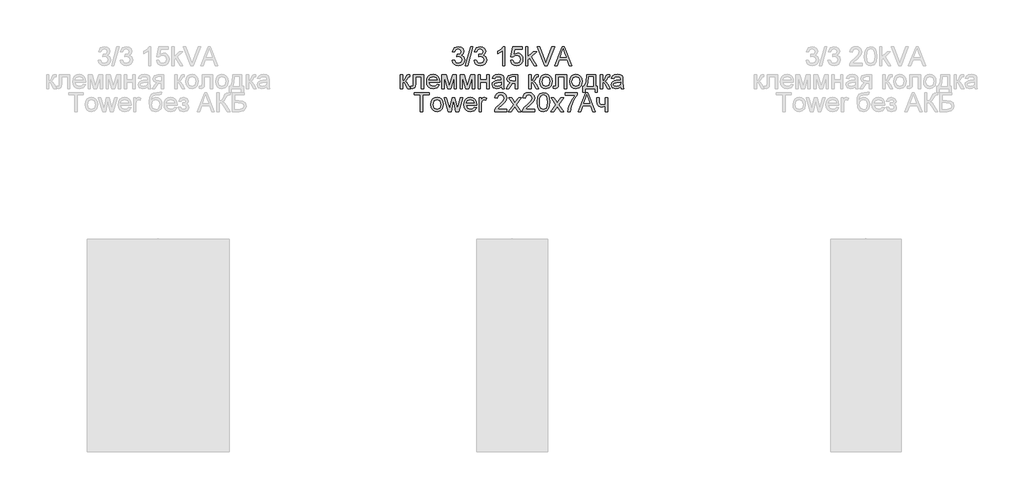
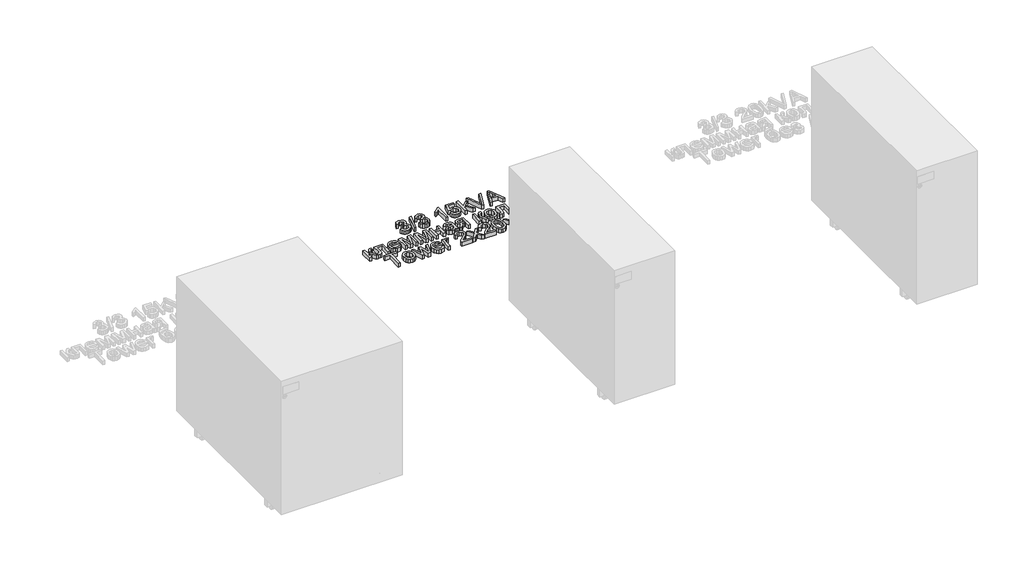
# One storey, part 28 of 74: 1 proxy.
"""IFC4 building model written with IfcOpenShell, lengths in millimetres."""

from ifc_helpers import new_model, si_unit, origin, origin_with_axes, place, context, project, spatial, polyline, outline, extrude, element, save

model = new_model("IFC4")

# Units and contexts
model_context = context("Model", 3, world=origin())
ifc_project = project(units=[si_unit("LENGTHUNIT", "METRE", prefix="MILLI")], contexts=[model_context])

# Site, building, storey
site = spatial("IfcSite", under=ifc_project)
building = spatial("IfcBuilding", under=site)
storey = spatial("IfcBuildingStorey", under=building, Name="Этаж 01", Elevation=0.0)

# Proxy
placement = place(None, origin())
element("IfcBuildingElementProxy", 1, Name="80 мм Arial", ObjectType="80 мм Arial", at=placement, inside=storey, context=model_context, shape_type="SweptSolid", body=[
    extrude(outline(polyline([(14598.3137414, -18752.4422861), (14608.3593724, -18751.1865822), (14613.9021278, -18761.7619633), (14624.2714949, -18764.9993249), (14636.475367, -18760.5455002), (14641.0076732, -18749.5188505), (14636.5146077, -18739.129863), (14625.0955506, -18735.0193948), (14618.0518367, -18736.1181357), (14619.1701979, -18726.0725047), (14620.7790685, -18726.1902269), (14632.1785053, -18723.3060321), (14637.2405615, -18714.4376235), (14633.5715518, -18706.5796641), (14624.114532, -18703.4698349), (14614.5397899, -18706.6090946), (14609.6150762, -18716.0268737), (14599.5694452, -18714.7711698), (14607.7903816, -18699.0160102), (14623.7613652, -18693.4242039), (14635.8769456, -18696.1808663), (14644.3529468, -18703.7150896), (14647.2861926, -18713.8490123), (14644.5000996, -18723.1098284), (14636.2595429, -18729.7611348), (14647.2077111, -18736.6282654), (14651.0533042, -18749.6954339), (14649.1305076, -18759.4860001), (14643.3621179, -18767.6676956), (14634.6555774, -18773.2006408), (14623.9183282, -18775.0449559), (14614.2062435, -18773.470421), (14606.2992332, -18768.7468161), (14600.8006236, -18761.5216138), (14598.3137414, -18752.4422861)])), origin_with_axes(), (0.0, 0.0, 1.0), 20.0),
    extrude(outline(polyline([(14654.8204158, -18773.789252), (14677.4230856, -18693.4242039), (14686.487698, -18693.4242039), (14663.8850282, -18773.789252), (14654.8204158, -18773.789252)])), origin_with_axes(), (0.0, 0.0, 1.0), 20.0),
    extrude(outline(polyline([(14691.2358282, -18752.4422861), (14701.2814593, -18751.1865822), (14706.8242147, -18761.7619633), (14717.1935818, -18764.9993249), (14729.3974539, -18760.5455002), (14733.9297601, -18749.5188505), (14729.4366946, -18739.129863), (14718.0176375, -18735.0193948), (14710.9739236, -18736.1181357), (14712.0922848, -18726.0725047), (14713.7011554, -18726.1902269), (14725.1005922, -18723.3060321), (14730.1626484, -18714.4376235), (14726.4936387, -18706.5796641), (14717.0366188, -18703.4698349), (14707.4618768, -18706.6090946), (14702.5371631, -18716.0268737), (14692.4915321, -18714.7711698), (14700.7124684, -18699.0160102), (14716.6834521, -18693.4242039), (14728.7990325, -18696.1808663), (14737.2750337, -18703.7150896), (14740.2082794, -18713.8490123), (14737.4221865, -18723.1098284), (14729.1816298, -18729.7611348), (14740.129798, -18736.6282654), (14743.9753911, -18749.6954339), (14742.0525945, -18759.4860001), (14736.2842048, -18767.6676956), (14727.5776643, -18773.2006408), (14716.8404151, -18775.0449559), (14707.1283304, -18773.470421), (14699.2213201, -18768.7468161), (14693.7227105, -18761.5216138), (14691.2358282, -18752.4422861)])), origin_with_axes(), (0.0, 0.0, 1.0), 20.0),
    extrude(outline(polyline([(14821.8290314, -18773.789252), (14811.7834004, -18773.789252), (14811.7834004, -18711.1610212), (14802.2675195, -18717.9398601), (14791.6921384, -18723.0117265), (14791.6921384, -18713.5154659), (14806.4172284, -18704.1173072), (14815.3543083, -18693.4242039), (14821.8290314, -18693.4242039), (14821.8290314, -18773.789252)])), origin_with_axes(), (0.0, 0.0, 1.0), 20.0),
    extrude(outline(polyline([(14845.6874051, -18752.4422861), (14855.7330361, -18751.1865822), (14860.7950924, -18761.536329), (14871.291992, -18764.9993249), (14883.8882715, -18760.1825233), (14888.3813369, -18747.3998502), (14884.1727669, -18735.4706634), (14871.4489549, -18731.0953202), (14862.6295973, -18732.8415334), (14856.98874, -18737.3738396), (14846.943109, -18736.1181357), (14855.7330361, -18694.6799078), (14894.6598563, -18694.6799078), (14894.6598563, -18704.7255388), (14863.8558706, -18704.7255388), (14859.5590089, -18726.8573196), (14874.2546683, -18721.0496892), (14883.6405643, -18722.8498584), (14891.4323049, -18728.2503661), (14896.6783022, -18736.4811126), (14898.4269679, -18746.7719983), (14896.852433, -18756.8176293), (14892.1288282, -18765.4113527), (14883.0838362, -18772.6365551), (14871.2527512, -18775.0449559), (14861.3861561, -18773.497399), (14853.5257441, -18768.8547282), (14848.1374992, -18761.6565038), (14845.6874051, -18752.4422861)])), origin_with_axes(), (0.0, 0.0, 1.0), 20.0),
    extrude(outline(polyline([(14909.7283028, -18773.789252), (14909.7283028, -18693.4242039), (14919.7739338, -18693.4242039), (14919.7739338, -18736.608645), (14942.2981221, -18714.7711698), (14956.1893463, -18714.7711698), (14933.3904728, -18736.8833303), (14957.4450501, -18773.789252), (14945.712067, -18773.789252), (14926.1897958, -18743.8681831), (14919.7739338, -18750.0878413), (14919.7739338, -18773.789252), (14909.7283028, -18773.789252)])), origin_with_axes(), (0.0, 0.0, 1.0), 20.0),
    extrude(outline(polyline([(15032.2182919, -18773.789252), (15064.2976019, -18693.4242039), (15072.8520846, -18693.4242039), (15104.9313946, -18773.789252), (15094.3167727, -18773.789252), (15085.1148177, -18748.6751745), (15052.0152484, -18748.6751745), (15042.8329138, -18773.789252), (15032.2182919, -18773.789252)]), holes=[polyline([(15055.7038785, -18738.6295435), (15081.445808, -18738.6295435), (15074.2058903, -18718.8718278), (15068.5748432, -18703.4698349), (15063.5716481, -18717.145235), (15055.7038785, -18738.6295435)])]), origin_with_axes(), (0.0, 0.0, 1.0), 20.0),
    extrude(outline(polyline([(14991.2313326, -18773.789252), (14959.2501245, -18693.4242039), (14970.0020889, -18693.4242039), (14991.4079159, -18751.3239249), (14995.7440184, -18764.3714729), (15000.0212597, -18751.3239249), (15021.4859479, -18693.4242039), (15032.2379123, -18693.4242039), (15001.6105099, -18773.789252), (14991.2313326, -18773.789252)])), origin_with_axes(), (0.0, 0.0, 1.0), 20.0),
    extrude(outline(polyline([(14433.1886815, -18812.3510241), (14478.3940211, -18812.3510241), (14478.3940211, -18871.3102452), (14468.3483901, -18871.3102452), (14468.3483901, -18822.3966551), (14443.2343126, -18822.3966551), (14443.2343126, -18850.5518905), (14442.5574097, -18863.5405774), (14438.839349, -18869.0244717), (14430.0494219, -18871.3691063), (14421.8873467, -18870.8589766), (14421.8873467, -18861.3234753), (14426.3804121, -18861.3234753), (14430.9225285, -18860.7054335), (14432.737413, -18858.7433962), (14433.1886815, -18849.9828996), (14433.1886815, -18812.3510241)])), origin_with_axes(), (0.0, 0.0, 1.0), 20.0),
    extrude(outline(polyline([(14379.1934148, -18812.3510241), (14389.2390459, -18812.3510241), (14389.2390459, -18837.4651016), (14395.9688338, -18835.6600273), (14401.4821587, -18825.1435073), (14406.0635158, -18816.0690848), (14410.1053126, -18813.1162186), (14417.4531423, -18812.3510241), (14419.3759389, -18812.3510241), (14419.3759389, -18822.4555162), (14416.6683274, -18822.3966551), (14411.7632341, -18823.4561553), (14408.3100485, -18830.068221), (14404.2584414, -18837.219847), (14398.5783434, -18840.7220836), (14404.9157239, -18844.6314429), (14411.1353822, -18852.8670945), (14421.8873467, -18871.3691063), (14410.4682895, -18871.3691063), (14399.9321492, -18853.259502), (14394.6346485, -18845.5977463), (14389.2390459, -18843.743621), (14389.2390459, -18871.3691063), (14379.1934148, -18871.3691063), (14379.1934148, -18812.3510241)])), origin_with_axes(), (0.0, 0.0, 1.0), 20.0),
    extrude(outline(polyline([(14534.7829733, -18853.789252), (14544.6324006, -18855.0449559), (14535.4206355, -18868.0140225), (14518.2626192, -18872.6248102), (14506.4756801, -18870.6357949), (14497.4061626, -18864.6687489), (14491.6230577, -18855.1111747), (14489.695356, -18842.3505745), (14491.642678, -18829.1607787), (14497.4846441, -18819.2966362), (14506.4315342, -18813.1456492), (14517.6936284, -18811.0953202), (14528.6050084, -18813.1407441), (14537.3238116, -18819.2770158), (14543.0406979, -18829.121538), (14544.9463266, -18842.2917134), (14544.8874655, -18844.9993249), (14499.740987, -18844.9993249), (14505.5191869, -18858.046873), (14518.4588229, -18862.5791792), (14528.3082502, -18860.4797992), (14534.7829733, -18853.789252)]), holes=[polyline([(14499.740987, -18834.9536939), (14534.9006956, -18834.9536939), (14530.8785191, -18825.8498408), (14517.6543876, -18821.1409512), (14505.2837424, -18824.8982527), (14499.740987, -18834.9536939)])]), origin_with_axes(), (0.0, 0.0, 1.0), 20.0),
    extrude(outline(polyline([(14554.9919576, -18812.3510241), (14572.2775063, -18812.3510241), (14585.5997396, -18859.5968825), (14599.9618527, -18812.3510241), (14616.5214476, -18812.3510241), (14616.5214476, -18871.3691063), (14606.4758166, -18871.3691063), (14606.4758166, -18823.8485627), (14592.035222, -18871.3691063), (14578.8503313, -18871.3691063), (14565.0375886, -18821.5725994), (14565.0375886, -18871.3691063), (14554.9919576, -18871.3691063), (14554.9919576, -18812.3510241)])), origin_with_axes(), (0.0, 0.0, 1.0), 20.0),
    extrude(outline(polyline([(14631.5898941, -18812.3510241), (14648.8754428, -18812.3510241), (14662.1976761, -18859.5968825), (14676.5597892, -18812.3510241), (14693.1193841, -18812.3510241), (14693.1193841, -18871.3691063), (14683.073753, -18871.3691063), (14683.073753, -18823.8485627), (14668.6331585, -18871.3691063), (14655.4482678, -18871.3691063), (14641.6355251, -18821.5725994), (14641.6355251, -18871.3691063), (14631.5898941, -18871.3691063), (14631.5898941, -18812.3510241)])), origin_with_axes(), (0.0, 0.0, 1.0), 20.0),
    extrude(outline(polyline([(14708.1878306, -18812.3510241), (14718.2334616, -18812.3510241), (14718.2334616, -18834.9536939), (14744.603243, -18834.9536939), (14744.603243, -18812.3510241), (14754.648874, -18812.3510241), (14754.648874, -18871.3691063), (14744.603243, -18871.3691063), (14744.603243, -18844.9993249), (14718.2334616, -18844.9993249), (14718.2334616, -18871.3691063), (14708.1878306, -18871.3691063), (14708.1878306, -18812.3510241)])), origin_with_axes(), (0.0, 0.0, 1.0), 20.0),
    extrude(outline(polyline([(14807.3884369, -18863.834883), (14797.6469216, -18870.6431525), (14786.885147, -18872.6248102), (14772.2973996, -18867.8570595), (14767.2059128, -18855.6728078), (14769.1287094, -18847.7265567), (14774.1809554, -18841.9581671), (14781.2148592, -18838.6619444), (14789.9066844, -18837.1511757), (14807.3295757, -18833.69799), (14807.3884369, -18831.4612675), (14804.6219643, -18824.0447664), (14793.5168331, -18821.1409512), (14783.3534798, -18823.073558), (14778.5072477, -18829.9308784), (14768.4616167, -18828.6751745), (14772.8075293, -18818.864988), (14781.5582157, -18813.1162186), (14794.8117777, -18811.0953202), (14806.9862192, -18812.8807742), (14813.86316, -18817.3640294), (14816.9435585, -18824.1821091), (14817.4340679, -18832.9720362), (14817.4340679, -18845.4702138), (14817.9441976, -18862.9225357), (14819.9454756, -18871.3691063), (14809.8998446, -18871.3691063), (14807.3884369, -18863.834883)]), holes=[polyline([(14807.3884369, -18843.743621), (14791.1820087, -18846.8240196), (14782.5392344, -18848.4525105), (14778.6249699, -18851.1012609), (14777.2515438, -18854.9664744), (14780.2436507, -18860.4013178), (14789.0237677, -18862.5791792), (14799.1871209, -18860.1756835), (14805.7403255, -18854.3582428), (14807.3295757, -18846.5885751), (14807.3884369, -18843.743621)])]), origin_with_axes(), (0.0, 0.0, 1.0), 20.0),
    extrude(outline(polyline([(14876.4521501, -18812.3510241), (14876.4521501, -18871.3691063), (14866.4065191, -18871.3691063), (14866.4065191, -18848.7664365), (14860.932435, -18848.7664365), (14853.4766932, -18850.0417608), (14846.47222, -18858.6158638), (14838.4671078, -18871.3691063), (14826.8518469, -18871.3691063), (14836.9367187, -18855.2411596), (14845.4912014, -18846.8828807), (14833.797459, -18840.7809447), (14829.9911066, -18829.4011283), (14835.1905055, -18817.079534), (14850.2393317, -18812.3510241), (14876.4521501, -18812.3510241)]), holes=[polyline([(14866.4065191, -18822.3966551), (14853.1627672, -18822.3966551), (14842.4402334, -18824.7216693), (14840.0367377, -18830.1663228), (14843.578215, -18836.6508561), (14856.1254436, -18838.7208055), (14866.4065191, -18838.7208055), (14866.4065191, -18822.3966551)])]), origin_with_axes(), (0.0, 0.0, 1.0), 20.0),
    extrude(outline(polyline([(14922.9131935, -18812.3510241), (14932.9588245, -18812.3510241), (14932.9588245, -18837.4651016), (14939.6886125, -18835.6600273), (14945.2019373, -18825.1435073), (14949.7832945, -18816.0690848), (14953.8250913, -18813.1162186), (14961.172921, -18812.3510241), (14963.0957176, -18812.3510241), (14963.0957176, -18822.4555162), (14960.3881061, -18822.3966551), (14955.4830128, -18823.4561553), (14952.0298272, -18830.068221), (14947.9782201, -18837.219847), (14942.2981221, -18840.7220836), (14948.6355026, -18844.6314429), (14954.8551609, -18852.8670945), (14965.6071253, -18871.3691063), (14954.1880682, -18871.3691063), (14943.6519279, -18853.259502), (14938.3544271, -18845.5977463), (14932.9588245, -18843.743621), (14932.9588245, -18871.3691063), (14922.9131935, -18871.3691063), (14922.9131935, -18812.3510241)])), origin_with_axes(), (0.0, 0.0, 1.0), 20.0),
    extrude(outline(polyline([(14969.374237, -18841.8600652), (14971.5471933, -18827.6303896), (14978.0660622, -18817.6289044), (14986.1202254, -18812.7287163), (14995.7636388, -18811.0953202), (15006.3169469, -18813.0843355), (15014.7463497, -18819.0513815), (15020.2719373, -18828.5255691), (15022.1137998, -18841.0360095), (15018.8568179, -18858.9101694), (15009.3703675, -18869.0244717), (14995.7636388, -18872.6248102), (14985.0827982, -18870.6431525), (14976.6632056, -18864.6981795), (14971.1964791, -18855.0253355), (14969.374237, -18841.8600652)]), holes=[polyline([(14979.419868, -18841.8404448), (14984.0698964, -18857.4092109), (14995.7636388, -18862.5791792), (15007.4181404, -18857.3797803), (15012.0681688, -18841.5265189), (15007.3887098, -18826.3109195), (14995.7636388, -18821.1409512), (14984.0698964, -18826.2912992), (14979.419868, -18841.8404448)])]), origin_with_axes(), (0.0, 0.0, 1.0), 20.0),
    extrude(outline(polyline([(15038.4379502, -18812.3510241), (15083.6432898, -18812.3510241), (15083.6432898, -18871.3102452), (15073.5976588, -18871.3102452), (15073.5976588, -18822.3966551), (15048.4835812, -18822.3966551), (15048.4835812, -18850.5518905), (15047.8066783, -18863.5405774), (15044.0886176, -18869.0244717), (15035.2986905, -18871.3691063), (15027.1366153, -18870.8589766), (15027.1366153, -18861.3234753), (15031.6296807, -18861.3234753), (15036.1717971, -18860.7054335), (15037.9866816, -18858.7433962), (15038.4379502, -18849.9828996), (15038.4379502, -18812.3510241)])), origin_with_axes(), (0.0, 0.0, 1.0), 20.0),
    extrude(outline(polyline([(15096.2003285, -18841.8600652), (15098.3732849, -18827.6303896), (15104.8921538, -18817.6289044), (15112.946317, -18812.7287163), (15122.5897303, -18811.0953202), (15133.1430385, -18813.0843355), (15141.5724413, -18819.0513815), (15147.0980288, -18828.5255691), (15148.9398914, -18841.0360095), (15145.6829094, -18858.9101694), (15136.1964591, -18869.0244717), (15122.5897303, -18872.6248102), (15111.9088897, -18870.6431525), (15103.4892971, -18864.6981795), (15098.0225707, -18855.0253355), (15096.2003285, -18841.8600652)]), holes=[polyline([(15106.2459596, -18841.8404448), (15110.895988, -18857.4092109), (15122.5897303, -18862.5791792), (15134.2442319, -18857.3797803), (15138.8942603, -18841.5265189), (15134.2148014, -18826.3109195), (15122.5897303, -18821.1409512), (15110.895988, -18826.2912992), (15106.2459596, -18841.8404448)])]), origin_with_axes(), (0.0, 0.0, 1.0), 20.0),
    extrude(outline(polyline([(15169.0311534, -18812.3510241), (15206.7022697, -18812.3510241), (15206.7022697, -18861.3234753), (15214.236493, -18861.3234753), (15214.236493, -18887.6932567), (15204.1908619, -18887.6932567), (15204.1908619, -18871.3691063), (15162.752634, -18871.3691063), (15162.752634, -18887.6932567), (15152.707003, -18887.6932567), (15152.707003, -18861.3234753), (15158.9855224, -18861.3234753), (15166.7453799, -18842.164181), (15169.0311534, -18812.3510241)]), holes=[polyline([(15177.8210805, -18822.3966551), (15175.4666358, -18845.2838203), (15170.2868573, -18861.3234753), (15196.6566387, -18861.3234753), (15196.6566387, -18822.3966551), (15177.8210805, -18822.3966551)])]), origin_with_axes(), (0.0, 0.0, 1.0), 20.0),
    extrude(outline(polyline([(15225.5378279, -18812.3510241), (15235.5834589, -18812.3510241), (15235.5834589, -18837.4651016), (15242.3132468, -18835.6600273), (15247.8265717, -18825.1435073), (15252.4079288, -18816.0690848), (15256.4497256, -18813.1162186), (15263.7975554, -18812.3510241), (15265.7203519, -18812.3510241), (15265.7203519, -18822.4555162), (15263.0127404, -18822.3966551), (15258.1076472, -18823.4561553), (15254.6544615, -18830.068221), (15250.6028545, -18837.219847), (15244.9227565, -18840.7220836), (15251.260137, -18844.6314429), (15257.4797952, -18852.8670945), (15268.2317597, -18871.3691063), (15256.8127025, -18871.3691063), (15246.2765622, -18853.259502), (15240.9790615, -18845.5977463), (15235.5834589, -18843.743621), (15235.5834589, -18871.3691063), (15225.5378279, -18871.3691063), (15225.5378279, -18812.3510241)])), origin_with_axes(), (0.0, 0.0, 1.0), 20.0),
    extrude(outline(polyline([(15312.1813954, -18863.834883), (15302.4398801, -18870.6431525), (15291.6781055, -18872.6248102), (15277.0903581, -18867.8570595), (15271.9988713, -18855.6728078), (15273.9216679, -18847.7265567), (15278.9739139, -18841.9581671), (15286.0078177, -18838.6619444), (15294.6996429, -18837.1511757), (15312.1225342, -18833.69799), (15312.1813954, -18831.4612675), (15309.4149228, -18824.0447664), (15298.3097916, -18821.1409512), (15288.1464383, -18823.073558), (15283.3002062, -18829.9308784), (15273.2545752, -18828.6751745), (15277.6004878, -18818.864988), (15286.3511742, -18813.1162186), (15299.6047362, -18811.0953202), (15311.7791777, -18812.8807742), (15318.6561185, -18817.3640294), (15321.736517, -18824.1821091), (15322.2270264, -18832.9720362), (15322.2270264, -18845.4702138), (15322.7371561, -18862.9225357), (15324.7384341, -18871.3691063), (15314.6928031, -18871.3691063), (15312.1813954, -18863.834883)]), holes=[polyline([(15312.1813954, -18843.743621), (15295.9749672, -18846.8240196), (15287.3321929, -18848.4525105), (15283.4179284, -18851.1012609), (15282.0445023, -18854.9664744), (15285.0366092, -18860.4013178), (15293.8167262, -18862.5791792), (15303.9800794, -18860.1756835), (15310.533284, -18854.3582428), (15312.1225342, -18846.5885751), (15312.1813954, -18843.743621)])]), origin_with_axes(), (0.0, 0.0, 1.0), 20.0),
    extrude(outline(polyline([(14463.9534265, -18968.9489606), (14463.9534265, -18898.6295435), (14437.5836451, -18898.6295435), (14437.5836451, -18888.5839125), (14500.368839, -18888.5839125), (14500.368839, -18898.6295435), (14473.9990575, -18898.6295435), (14473.9990575, -18968.9489606), (14463.9534265, -18968.9489606)])), origin_with_axes(), (0.0, 0.0, 1.0), 20.0),
    extrude(outline(polyline([(14507.9030622, -18939.4399195), (14510.0760185, -18925.2102439), (14516.5948875, -18915.2087587), (14524.6490506, -18910.3085705), (14534.292464, -18908.6751745), (14544.8457722, -18910.6641898), (14553.275175, -18916.6312358), (14558.8007625, -18926.1054234), (14560.6426251, -18938.6158638), (14557.3856431, -18956.4900237), (14547.8991927, -18966.604326), (14534.292464, -18970.2046645), (14523.6116234, -18968.2230068), (14515.1920308, -18962.2780337), (14509.7253044, -18952.6051898), (14507.9030622, -18939.4399195)]), holes=[polyline([(14517.9486932, -18939.4202991), (14522.5987217, -18954.9890651), (14534.292464, -18960.1590334), (14545.9469656, -18954.9596346), (14550.596994, -18939.1063731), (14545.9175351, -18923.8907738), (14534.292464, -18918.7208055), (14522.5987217, -18923.8711534), (14517.9486932, -18939.4202991)])]), origin_with_axes(), (0.0, 0.0, 1.0), 20.0),
    extrude(outline(polyline([(14581.7345261, -18968.9489606), (14563.7818847, -18909.9308784), (14574.2199232, -18909.9308784), (14584.4028968, -18944.3646331), (14587.4440547, -18956.666607), (14589.9358421, -18944.8159017), (14598.0390561, -18909.9308784), (14610.0074837, -18909.9308784), (14618.071457, -18944.7177998), (14620.2885592, -18955.4501439), (14623.4670596, -18944.1291886), (14633.6696536, -18909.9308784), (14644.1469329, -18909.9308784), (14626.0569489, -18968.9489606), (14613.911938, -18968.9489606), (14606.2011313, -18934.3386225), (14603.9644088, -18923.5474173), (14594.0168797, -18968.9489606), (14581.7345261, -18968.9489606)])), origin_with_axes(), (0.0, 0.0, 1.0), 20.0),
    extrude(outline(polyline([(14692.3738099, -18951.3691063), (14702.2232372, -18952.6248102), (14693.011472, -18965.5938768), (14675.8534558, -18970.2046645), (14664.0665166, -18968.2156491), (14654.9969992, -18962.2486032), (14649.2138942, -18952.6910289), (14647.2861926, -18939.9304288), (14649.2335146, -18926.740633), (14655.0754807, -18916.8764904), (14664.0223708, -18910.7255035), (14675.2844649, -18908.6751745), (14686.1958449, -18910.7205984), (14694.9146482, -18916.8568701), (14700.6315344, -18926.7013923), (14702.5371631, -18939.8715677), (14702.478302, -18942.5791792), (14657.3318236, -18942.5791792), (14663.1100234, -18955.6267273), (14676.0496595, -18960.1590334), (14685.8990868, -18958.0596535), (14692.3738099, -18951.3691063)]), holes=[polyline([(14657.3318236, -18932.5335481), (14692.4915321, -18932.5335481), (14688.4693556, -18923.429695), (14675.2452242, -18918.7208055), (14662.874579, -18922.4781069), (14657.3318236, -18932.5335481)])]), origin_with_axes(), (0.0, 0.0, 1.0), 20.0),
    extrude(outline(polyline([(14712.5827942, -18968.9489606), (14712.5827942, -18909.9308784), (14721.3727213, -18909.9308784), (14721.3727213, -18918.6619444), (14727.6119999, -18910.6175914), (14733.8905193, -18908.6751745), (14743.9753911, -18911.7751934), (14740.6203073, -18920.7809447), (14733.556973, -18918.7208055), (14727.876875, -18920.7024632), (14724.2569161, -18926.1961676), (14722.6284252, -18937.9291507), (14722.6284252, -18968.9489606), (14712.5827942, -18968.9489606)])), origin_with_axes(), (0.0, 0.0, 1.0), 20.0),
    extrude(outline(polyline([(14830.6189586, -18958.9033296), (14830.6189586, -18968.9489606), (14777.8793957, -18968.9489606), (14778.9585163, -18962.0229689), (14785.0604523, -18951.3592961), (14797.6371114, -18939.7146047), (14814.9815212, -18922.9784265), (14819.3176237, -18911.5986101), (14815.2267759, -18902.3868449), (14804.5434828, -18898.6295435), (14793.408921, -18902.2985532), (14789.1807306, -18912.4422861), (14779.1350996, -18911.1865822), (14781.5704784, -18901.4695925), (14786.8360961, -18894.3719225), (14794.6572673, -18890.030915), (14804.7593069, -18888.5839125), (14814.9349228, -18890.1927831), (14822.7413788, -18895.0193948), (14827.7077857, -18902.2298819), (14829.3632547, -18910.9903785), (14827.5778008, -18920.5160696), (14821.6426379, -18930.3654969), (14807.2510942, -18944.1291886), (14795.6946945, -18953.7922224), (14791.1623883, -18958.9033296), (14830.6189586, -18958.9033296)])), origin_with_axes(), (0.0, 0.0, 1.0), 20.0),
    extrude(outline(polyline([(14836.897478, -18968.9489606), (14858.3621661, -18939.2829565), (14838.1531818, -18909.9308784), (14850.2393317, -18909.9308784), (14859.9906571, -18924.057547), (14864.5425836, -18930.7284738), (14868.4862786, -18925.2740101), (14879.5914098, -18909.9308784), (14891.6775596, -18909.9308784), (14870.4483159, -18939.2829565), (14890.8927447, -18968.9489606), (14878.8065949, -18968.9489606), (14866.5046209, -18951.1140415), (14864.248278, -18947.8570595), (14848.9836278, -18968.9489606), (14836.897478, -18968.9489606)])), origin_with_axes(), (0.0, 0.0, 1.0), 20.0),
    extrude(outline(polyline([(14948.655123, -18958.9033296), (14948.655123, -18968.9489606), (14895.9155602, -18968.9489606), (14896.9946807, -18962.0229689), (14903.0966167, -18951.3592961), (14915.6732759, -18939.7146047), (14933.0176857, -18922.9784265), (14937.3537881, -18911.5986101), (14933.2629403, -18902.3868449), (14922.5796472, -18898.6295435), (14911.4450855, -18902.2985532), (14907.2168951, -18912.4422861), (14897.1712641, -18911.1865822), (14899.6066429, -18901.4695925), (14904.8722605, -18894.3719225), (14912.6934317, -18890.030915), (14922.7954713, -18888.5839125), (14932.9710873, -18890.1927831), (14940.7775432, -18895.0193948), (14945.7439501, -18902.2298819), (14947.3994191, -18910.9903785), (14945.6139652, -18920.5160696), (14939.6788023, -18930.3654969), (14925.2872587, -18944.1291886), (14913.7308589, -18953.7922224), (14909.1985527, -18958.9033296), (14948.655123, -18958.9033296)])), origin_with_axes(), (0.0, 0.0, 1.0), 20.0),
    extrude(outline(polyline([(14958.700754, -18929.4139088), (14961.6536202, -18906.2912992), (14970.4239269, -18892.9592557), (14985.0705354, -18888.5839125), (14996.8035185, -18891.1738017), (15004.9067326, -18898.6393537), (15009.6156222, -18910.5292997), (15011.4403168, -18929.4139088), (15008.5168813, -18952.4384166), (14999.7760051, -18965.7998907), (14985.0705354, -18970.2046645), (14974.632497, -18968.2916781), (14966.7058662, -18962.552719), (14960.7020321, -18948.9607055), (14958.700754, -18929.4139088)]), holes=[polyline([(14968.746385, -18929.3942885), (14969.9236074, -18945.1960464), (14973.4552746, -18954.3415928), (14985.0705354, -18960.1590334), (14996.6857963, -18954.3219724), (15000.2174634, -18945.171521), (15001.3946858, -18929.3942885), (15000.2567042, -18913.9481498), (14996.8427593, -18904.7314795), (14991.5943095, -18900.1550275), (14984.9528132, -18898.6295435), (14973.6122376, -18904.0055257), (14969.9628482, -18913.7960919), (14968.746385, -18929.3942885)])]), origin_with_axes(), (0.0, 0.0, 1.0), 20.0),
    extrude(outline(polyline([(15016.4631324, -18968.9489606), (15037.9278205, -18939.2829565), (15017.7188362, -18909.9308784), (15029.804986, -18909.9308784), (15039.5563115, -18924.057547), (15044.108238, -18930.7284738), (15048.051933, -18925.2740101), (15059.1570642, -18909.9308784), (15071.243214, -18909.9308784), (15050.0139703, -18939.2829565), (15070.4583991, -18968.9489606), (15058.3722492, -18968.9489606), (15046.0702753, -18951.1140415), (15043.8139324, -18947.8570595), (15028.5492822, -18968.9489606), (15016.4631324, -18968.9489606)])), origin_with_axes(), (0.0, 0.0, 1.0), 20.0),
    extrude(outline(polyline([(15076.7369184, -18899.8852474), (15076.7369184, -18889.8396163), (15129.4764813, -18889.8396163), (15129.4764813, -18897.9624508), (15114.5159468, -18919.5742917), (15103.0674591, -18947.1114853), (15099.3395882, -18968.9489606), (15089.2939572, -18968.9489606), (15093.2867031, -18946.2874297), (15104.2446815, -18920.6730326), (15119.4308503, -18899.8852474), (15076.7369184, -18899.8852474)])), origin_with_axes(), (0.0, 0.0, 1.0), 20.0),
    extrude(outline(polyline([(15132.6746021, -18968.9489606), (15164.7539121, -18888.5839125), (15173.3083947, -18888.5839125), (15205.3877047, -18968.9489606), (15194.7730829, -18968.9489606), (15185.5711279, -18943.834883), (15152.4715585, -18943.834883), (15143.2892239, -18968.9489606), (15132.6746021, -18968.9489606)]), holes=[polyline([(15156.1601887, -18933.789252), (15181.9021181, -18933.789252), (15174.6622005, -18914.0315363), (15169.0311534, -18898.6295435), (15164.0279583, -18912.3049435), (15156.1601887, -18933.789252)])]), origin_with_axes(), (0.0, 0.0, 1.0), 20.0),
    extrude(outline(polyline([(15211.0972333, -18909.9308784), (15221.1428643, -18909.9308784), (15221.1428643, -18921.2518336), (15221.9571098, -18931.8664555), (15225.8713742, -18937.6152248), (15233.6410419, -18940.0677714), (15247.5126457, -18937.0266136), (15247.5126457, -18909.9308784), (15257.5582767, -18909.9308784), (15257.5582767, -18968.9489606), (15247.5126457, -18968.9489606), (15247.5126457, -18946.6602168), (15230.9530508, -18950.1134024), (15219.5634243, -18946.513064), (15212.8630668, -18937.6937063), (15211.0972333, -18926.215788), (15211.0972333, -18909.9308784)])), origin_with_axes(), (0.0, 0.0, 1.0), 20.0),
])

save(model, "model.ifc")
